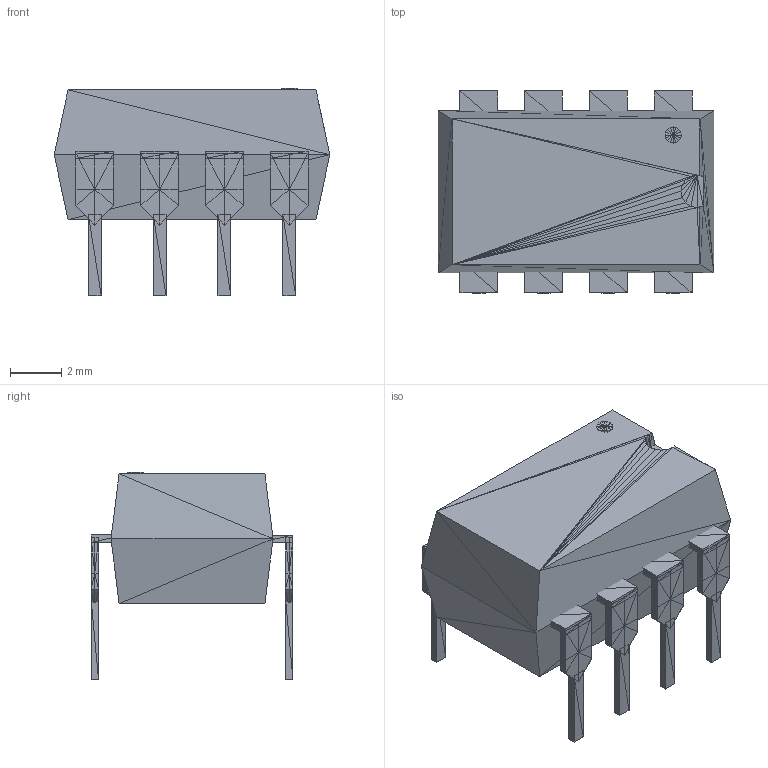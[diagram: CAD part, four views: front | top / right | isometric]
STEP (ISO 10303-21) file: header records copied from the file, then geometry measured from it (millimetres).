
FILE_DESCRIPTION(('HOOPS Exchange Step'),'2;1');
FILE_NAME('***.stp');
FILE_SCHEMA( ('AP242_MANAGED_MODEL_BASED_3D_ENGINEERING_MIM_LF {1 0 10303 442 1 1 4 }') );
Length unit declared in the file: inch
Products named in the file (11): DIP-8_2; DIP-8_3; DIP-8_4; DIP-8_5; DIP-8_6; DIP-8_7; DIP-8_8; DIP-8_9; DIP-8_10; DIP-8_11; DIP-8
Assembly tree (10 placements, depth 2):
  DIP-8
    DIP-8_2
    DIP-8_3
    DIP-8_4
    DIP-8_5
    DIP-8_6
    DIP-8_7
    DIP-8_8
    DIP-8_9
    DIP-8_10
    DIP-8_11
Bounding box: 10.79 x 7.91 x 8.13 mm (x, y, z)
Volume: 324.1 mm3; surface area: 441.9 mm2
Topology: 19 solids, 26 shells, 706 faces, 1059 edges, 405 vertices
Faces by surface type: plane 706
Entity records: 14372 total; most frequent: DIRECTION 2515, CARTESIAN_POINT 2192, ORIENTED_EDGE 2118, VECTOR 1059, LINE 1059, EDGE_CURVE 1059, AXIS2_PLACEMENT_3D 728, PLANE 706
